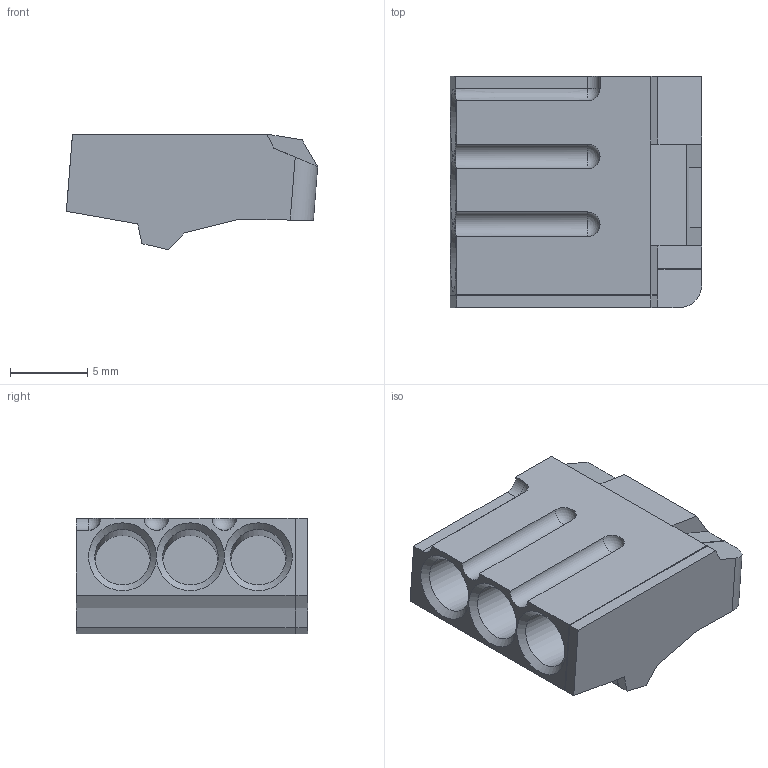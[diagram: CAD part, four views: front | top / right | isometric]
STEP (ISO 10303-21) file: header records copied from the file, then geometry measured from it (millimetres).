
FILE_DESCRIPTION(/* description */ ('Unknown'),/* implementation_level */ '2;1');
FILE_NAME(/* name */ 'ST 3503',/* time_stamp */ '2021-10-08T08:57:22+02:00',/* author */ ('Unknown'),/* organization */ ('Unknown'),/* preprocessor_version */ 'ST-DEVELOPER v16.7',/* originating_system */ 'Solid Edge',/* authorisation */ 'Unknown');
FILE_SCHEMA (('AUTOMOTIVE_DESIGN {1 0 10303 214 3 1 1}'));
Length unit declared in the file: millimetre
Products named in the file (1): ST 3503
Bounding box: 16.28 x 15 x 7.5 mm (x, y, z)
Volume: 1152 mm3; surface area: 1051 mm2
Topology: 1 solids, 1 shells, 70 faces, 177 edges, 101 vertices
Faces by surface type: plane 39, cylinder 21, sphere 6, cone 3, bspline 1
Full cylindrical faces by diameter (mm): 3.6 x3
Entity records: 2412 total; most frequent: CARTESIAN_POINT 339, DIRECTION 332, ORIENTED_EDGE 308, EDGE_CURVE 154, AXIS2_PLACEMENT_3D 111, LINE 110, VECTOR 110, VERTEX_POINT 93
